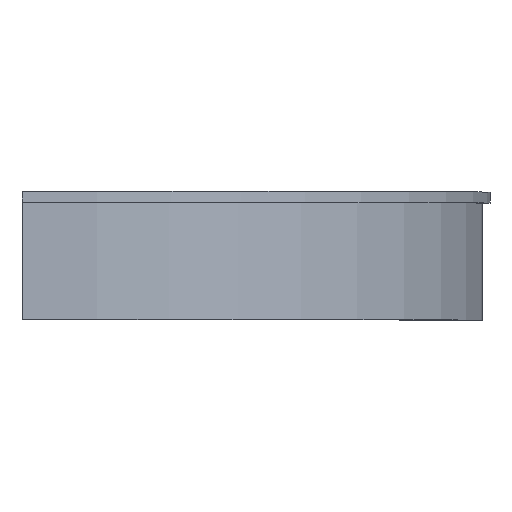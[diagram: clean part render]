
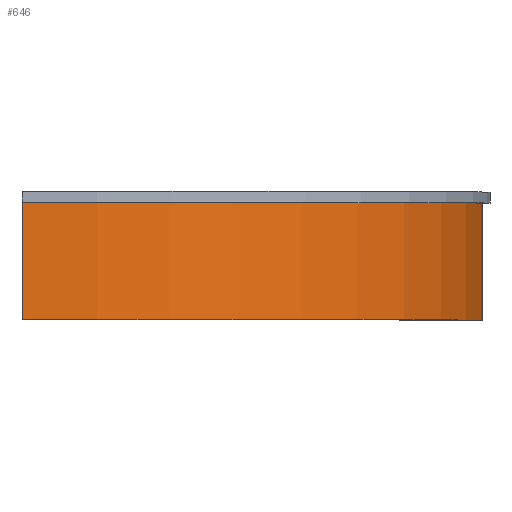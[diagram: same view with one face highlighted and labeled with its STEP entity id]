
A CAD part, top view. The second image highlights one B-rep face of the part: STEP entity #646.
In plain terms, the highlighted cylindrical face has radius 126 mm (diameter 252 mm), a partial arc.
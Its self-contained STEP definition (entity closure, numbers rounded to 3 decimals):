
#73 = PLANE('',#74);
#74 = AXIS2_PLACEMENT_3D('',#75,#76,#77);
#75 = CARTESIAN_POINT('',(185.,164.,34.));
#76 = DIRECTION('',(1.,0.,-0.));
#77 = DIRECTION('',(0.,0.,1.));
#102 = PLANE('',#103);
#103 = AXIS2_PLACEMENT_3D('',#104,#105,#106);
#104 = CARTESIAN_POINT('',(185.,197.,100.));
#105 = DIRECTION('',(0.,1.,0.));
#106 = DIRECTION('',(0.,-0.,1.));
#127 = PLANE('',#128);
#128 = AXIS2_PLACEMENT_3D('',#129,#130,#131);
#129 = CARTESIAN_POINT('',(50.,-210.,35.));
#130 = DIRECTION('',(0.,0.,1.));
#131 = DIRECTION('',(1.,0.,-0.));
#219 = VERTEX_POINT('',#220);
#220 = CARTESIAN_POINT('',(185.,197.,226.));
#239 = EDGE_CURVE('',#240,#219,#242,.T.);
#240 = VERTEX_POINT('',#241);
#241 = CARTESIAN_POINT('',(185.,165.,226.));
#242 = SURFACE_CURVE('',#243,(#247,#254),.PCURVE_S1.);
#243 = LINE('',#244,#245);
#244 = CARTESIAN_POINT('',(185.,165.,226.));
#245 = VECTOR('',#246,1.);
#246 = DIRECTION('',(0.,1.,0.));
#247 = PCURVE('',#73,#248);
#248 = DEFINITIONAL_REPRESENTATION('',(#249),#253);
#249 = LINE('',#250,#251);
#250 = CARTESIAN_POINT('',(192.,-1.));
#251 = VECTOR('',#252,1.);
#252 = DIRECTION('',(0.,-1.));
#253 = ( GEOMETRIC_REPRESENTATION_CONTEXT(2) 
PARAMETRIC_REPRESENTATION_CONTEXT() REPRESENTATION_CONTEXT('2D SPACE',''
  ) );
#254 = PCURVE('',#255,#260);
#255 = CYLINDRICAL_SURFACE('',#256,126.);
#256 = AXIS2_PLACEMENT_3D('',#257,#258,#259);
#257 = CARTESIAN_POINT('',(185.,165.,100.));
#258 = DIRECTION('',(0.,1.,0.));
#259 = DIRECTION('',(0.,-0.,1.));
#260 = DEFINITIONAL_REPRESENTATION('',(#261),#265);
#261 = LINE('',#262,#263);
#262 = CARTESIAN_POINT('',(0.,-0.));
#263 = VECTOR('',#264,1.);
#264 = DIRECTION('',(0.,1.));
#265 = ( GEOMETRIC_REPRESENTATION_CONTEXT(2) 
PARAMETRIC_REPRESENTATION_CONTEXT() REPRESENTATION_CONTEXT('2D SPACE',''
  ) );
#282 = PLANE('',#283);
#283 = AXIS2_PLACEMENT_3D('',#284,#285,#286);
#284 = CARTESIAN_POINT('',(185.,165.,100.));
#285 = DIRECTION('',(0.,1.,0.));
#286 = DIRECTION('',(0.,-0.,1.));
#375 = VERTEX_POINT('',#376);
#376 = CARTESIAN_POINT('',(292.94,197.,35.));
#397 = EDGE_CURVE('',#219,#375,#398,.T.);
#398 = SURFACE_CURVE('',#399,(#404,#411),.PCURVE_S1.);
#399 = CIRCLE('',#400,126.);
#400 = AXIS2_PLACEMENT_3D('',#401,#402,#403);
#401 = CARTESIAN_POINT('',(185.,197.,100.));
#402 = DIRECTION('',(0.,1.,0.));
#403 = DIRECTION('',(0.,-0.,1.));
#404 = PCURVE('',#102,#405);
#405 = DEFINITIONAL_REPRESENTATION('',(#406),#410);
#406 = CIRCLE('',#407,126.);
#407 = AXIS2_PLACEMENT_2D('',#408,#409);
#408 = CARTESIAN_POINT('',(0.,0.));
#409 = DIRECTION('',(1.,0.));
#410 = ( GEOMETRIC_REPRESENTATION_CONTEXT(2) 
PARAMETRIC_REPRESENTATION_CONTEXT() REPRESENTATION_CONTEXT('2D SPACE',''
  ) );
#411 = PCURVE('',#255,#412);
#412 = DEFINITIONAL_REPRESENTATION('',(#413),#417);
#413 = LINE('',#414,#415);
#414 = CARTESIAN_POINT('',(0.,32.));
#415 = VECTOR('',#416,1.);
#416 = DIRECTION('',(1.,0.));
#417 = ( GEOMETRIC_REPRESENTATION_CONTEXT(2) 
PARAMETRIC_REPRESENTATION_CONTEXT() REPRESENTATION_CONTEXT('2D SPACE',''
  ) );
#493 = VERTEX_POINT('',#494);
#494 = CARTESIAN_POINT('',(292.94,165.,35.));
#515 = EDGE_CURVE('',#493,#375,#516,.T.);
#516 = SURFACE_CURVE('',#517,(#521,#528),.PCURVE_S1.);
#517 = LINE('',#518,#519);
#518 = CARTESIAN_POINT('',(292.94,165.,35.));
#519 = VECTOR('',#520,1.);
#520 = DIRECTION('',(0.,1.,0.));
#521 = PCURVE('',#127,#522);
#522 = DEFINITIONAL_REPRESENTATION('',(#523),#527);
#523 = LINE('',#524,#525);
#524 = CARTESIAN_POINT('',(242.94,375.));
#525 = VECTOR('',#526,1.);
#526 = DIRECTION('',(0.,1.));
#527 = ( GEOMETRIC_REPRESENTATION_CONTEXT(2) 
PARAMETRIC_REPRESENTATION_CONTEXT() REPRESENTATION_CONTEXT('2D SPACE',''
  ) );
#528 = PCURVE('',#255,#529);
#529 = DEFINITIONAL_REPRESENTATION('',(#530),#533);
#530 = B_SPLINE_CURVE_WITH_KNOTS('',1,(#531,#532),.UNSPECIFIED.,.F.,.F.,
  (2,2),(0.,32.),.PIECEWISE_BEZIER_KNOTS.);
#531 = CARTESIAN_POINT('',(2.113,0.));
#532 = CARTESIAN_POINT('',(2.113,32.));
#533 = ( GEOMETRIC_REPRESENTATION_CONTEXT(2) 
PARAMETRIC_REPRESENTATION_CONTEXT() REPRESENTATION_CONTEXT('2D SPACE',''
  ) );
#623 = EDGE_CURVE('',#240,#493,#624,.T.);
#624 = SURFACE_CURVE('',#625,(#630,#637),.PCURVE_S1.);
#625 = CIRCLE('',#626,126.);
#626 = AXIS2_PLACEMENT_3D('',#627,#628,#629);
#627 = CARTESIAN_POINT('',(185.,165.,100.));
#628 = DIRECTION('',(0.,1.,0.));
#629 = DIRECTION('',(0.,-0.,1.));
#630 = PCURVE('',#282,#631);
#631 = DEFINITIONAL_REPRESENTATION('',(#632),#636);
#632 = CIRCLE('',#633,126.);
#633 = AXIS2_PLACEMENT_2D('',#634,#635);
#634 = CARTESIAN_POINT('',(0.,0.));
#635 = DIRECTION('',(1.,0.));
#636 = ( GEOMETRIC_REPRESENTATION_CONTEXT(2) 
PARAMETRIC_REPRESENTATION_CONTEXT() REPRESENTATION_CONTEXT('2D SPACE',''
  ) );
#637 = PCURVE('',#255,#638);
#638 = DEFINITIONAL_REPRESENTATION('',(#639),#643);
#639 = LINE('',#640,#641);
#640 = CARTESIAN_POINT('',(0.,0.));
#641 = VECTOR('',#642,1.);
#642 = DIRECTION('',(1.,0.));
#643 = ( GEOMETRIC_REPRESENTATION_CONTEXT(2) 
PARAMETRIC_REPRESENTATION_CONTEXT() REPRESENTATION_CONTEXT('2D SPACE',''
  ) );
#646 = ADVANCED_FACE('',(#647),#255,.T.);
#647 = FACE_BOUND('',#648,.T.);
#648 = EDGE_LOOP('',(#649,#650,#651,#652));
#649 = ORIENTED_EDGE('',*,*,#397,.F.);
#650 = ORIENTED_EDGE('',*,*,#239,.F.);
#651 = ORIENTED_EDGE('',*,*,#623,.T.);
#652 = ORIENTED_EDGE('',*,*,#515,.T.);
